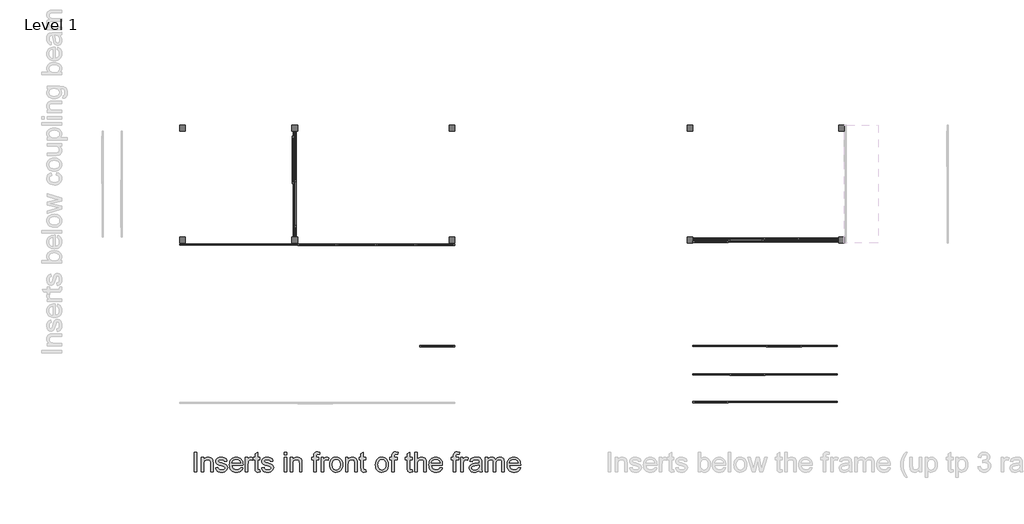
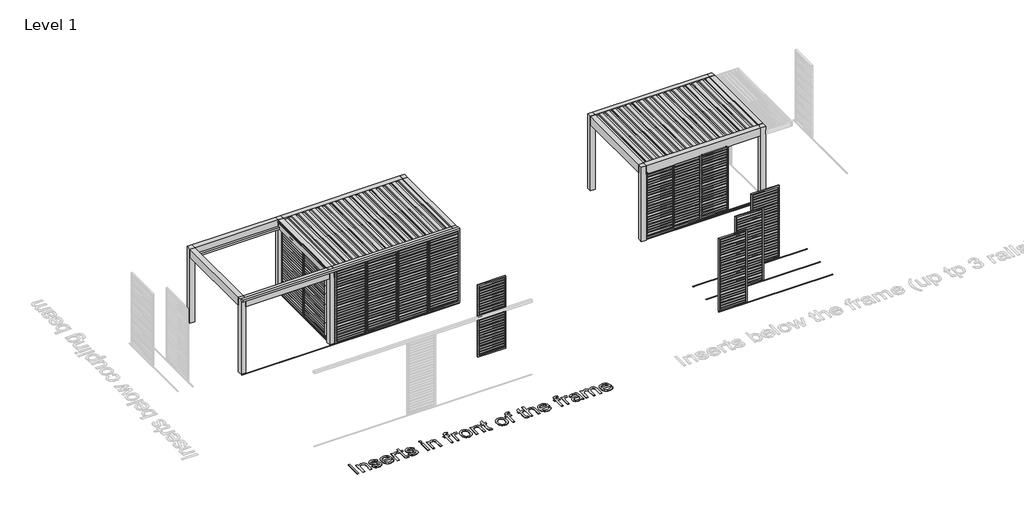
# One storey, part 28 of 80: 16 proxies.
"""IFC4 building model written with IfcOpenShell, lengths in millimetres."""

from ifc_helpers import new_model, si_unit, origin, origin_with_axes, place, context, project, spatial, polyline, outline, extrude, transform, mapped, element, save
from components import generic_models_f342dfb5, generic_models_eb283adb, generic_models_c7c46cfa, generic_models_8391a76d, generic_models_fa1a9668, generic_models_cdf295df, generic_models_edb0fb24, generic_models_1257a8fd, generic_models_31c1c7fc, generic_models_13bb7243, generic_models_96be32b9, generic_models_48b574e4, generic_models_f3fb5b0b

model = new_model("IFC4")

# Units and contexts
model_context = context("Model", 3, world=origin())
ifc_project = project(units=[si_unit("LENGTHUNIT", "METRE", prefix="MILLI")], contexts=[model_context])

# Site, building, storey
site = spatial("IfcSite", under=ifc_project)
building = spatial("IfcBuilding", under=site)
storey = spatial("IfcBuildingStorey", under=building, Name="Level 1", Elevation=0.0)

# Proxies
placement = place(None, origin())
generic_models_shape = generic_models_f342dfb5(model_context)
element("IfcBuildingElementProxy", 1, Name="Renson_Amani_Patio_Cover : Renson_Amani_Patio_Cover", ObjectType="Renson_Amani_Patio_Cover : Renson_Amani_Patio_Cover", at=placement, inside=storey, context=model_context, shape_type="MappedRepresentation", body=[
    mapped(generic_models_shape, transform((417010.5749426, -39559.318181, 0.0), x_axis=(1.0, 0.0, 0.0), y_axis=(0.0, 1.0, 0.0), z_axis=(0.0, 0.0, 1.0))),
])
generic_models_2_shape = generic_models_eb283adb(model_context)
element("IfcBuildingElementProxy", 2, Name="Renson_Amani_Patio_Cover : Renson_Amani_Patio_Cover", ObjectType="Renson_Amani_Patio_Cover : Renson_Amani_Patio_Cover", at=placement, inside=storey, context=model_context, shape_type="MappedRepresentation", body=[
    mapped(generic_models_2_shape, transform((430410.5749426, -39559.318181, 0.0), x_axis=(1.0, 0.0, 0.0), y_axis=(0.0, 1.0, 0.0), z_axis=(0.0, 0.0, 1.0))),
])
generic_models_3_shape = generic_models_c7c46cfa(model_context)
element("IfcBuildingElementProxy", 3, Name="Renson_Amani_Loggia_Paro_Aluminium_Sliding : Renson_Amani_Loggia_Paro_Aluminium_Sliding", ObjectType="Renson_Amani_Loggia_Paro_Aluminium_Sliding : Renson_Amani_Loggia_Paro_Aluminium_Sliding", at=placement, inside=storey, context=model_context, shape_type="MappedRepresentation", body=[
    mapped(generic_models_3_shape, transform((420010.5749426, -41105.318181, 0.0), x_axis=(1.0, 0.0, 0.0), y_axis=(0.0, 1.0, 0.0), z_axis=(0.0, 0.0, 1.0))),
])
element("IfcBuildingElementProxy", 4, Name="Renson_Amani_Loggia_Paro_Aluminium_Sliding : Renson_Amani_Loggia_Paro_Aluminium_Sliding", ObjectType="Renson_Amani_Loggia_Paro_Aluminium_Sliding : Renson_Amani_Loggia_Paro_Aluminium_Sliding", at=placement, inside=storey, context=model_context, shape_type="MappedRepresentation", body=[
    mapped(generic_models_3_shape, transform((421010.5749426, -41105.318181, 0.0), x_axis=(1.0, 0.0, 0.0), y_axis=(0.0, 1.0, 0.0), z_axis=(0.0, 0.0, 1.0))),
])
element("IfcBuildingElementProxy", 5, Name="Renson_Amani_Loggia_Paro_Aluminium_Sliding : Renson_Amani_Loggia_Paro_Aluminium_Sliding", ObjectType="Renson_Amani_Loggia_Paro_Aluminium_Sliding : Renson_Amani_Loggia_Paro_Aluminium_Sliding", at=placement, inside=storey, context=model_context, shape_type="MappedRepresentation", body=[
    mapped(generic_models_3_shape, transform((422010.5749426, -41105.318181, 0.0), x_axis=(1.0, 0.0, 0.0), y_axis=(0.0, 1.0, 0.0), z_axis=(0.0, 0.0, 1.0))),
])
generic_models_4_shape = generic_models_8391a76d(model_context)
element("IfcBuildingElementProxy", 6, Name="Renson_Amani_Loggia_Paro_Aluminium_Sliding : Renson_Amani_Loggia_Paro_Aluminium_Sliding", ObjectType="Renson_Amani_Loggia_Paro_Aluminium_Sliding : Renson_Amani_Loggia_Paro_Aluminium_Sliding", at=placement, inside=storey, context=model_context, shape_type="MappedRepresentation", body=[
    mapped(generic_models_4_shape, transform((419010.5749426, -41105.318181, 0.0), x_axis=(1.0, 0.0, 0.0), y_axis=(0.0, 1.0, 0.0), z_axis=(0.0, 0.0, 1.0))),
])
generic_models_5_shape = generic_models_fa1a9668(model_context)
element("IfcBuildingElementProxy", 7, Name="Renson_Amani_Loggia_Paro_Aluminium_Sliding : Renson_Amani_Loggia_Paro_Aluminium_Sliding", ObjectType="Renson_Amani_Loggia_Paro_Aluminium_Sliding : Renson_Amani_Loggia_Paro_Aluminium_Sliding", at=placement, inside=storey, context=model_context, shape_type="MappedRepresentation", body=[
    mapped(generic_models_5_shape, transform((422060.5749426, -43687.443424, 0.0), x_axis=(1.0, 0.0, 0.0), y_axis=(0.0, 1.0, 0.0), z_axis=(0.0, 0.0, 1.0))),
])
generic_models_6_shape = generic_models_cdf295df(model_context)
element("IfcBuildingElementProxy", 8, Name="Renson_Amani_Loggia_Paro_Aluminium_Sliding : Renson_Amani_Loggia_Paro_Aluminium_Sliding", ObjectType="Renson_Amani_Loggia_Paro_Aluminium_Sliding : Renson_Amani_Loggia_Paro_Aluminium_Sliding", at=placement, inside=storey, context=model_context, shape_type="MappedRepresentation", body=[
    mapped(generic_models_6_shape, transform((418400.5749426, -38944.9696571, 0.0), x_axis=(0.0, -1.0, 0.0), y_axis=(1.0, 0.0, 0.0), z_axis=(0.0, 0.0, 1.0))),
])
generic_models_7_shape = generic_models_edb0fb24(model_context)
element("IfcBuildingElementProxy", 9, Name="Renson_Amani_Loggia_Paro_Aluminium_Sliding : Renson_Amani_Loggia_Paro_Aluminium_Sliding", ObjectType="Renson_Amani_Loggia_Paro_Aluminium_Sliding : Renson_Amani_Loggia_Paro_Aluminium_Sliding", at=placement, inside=storey, context=model_context, shape_type="MappedRepresentation", body=[
    mapped(generic_models_7_shape, transform((429010.5749426, -45109.3676714, 0.0), x_axis=(1.0, 0.0, 0.0), y_axis=(0.0, 1.0, 0.0), z_axis=(0.0, 0.0, 1.0))),
])
generic_models_8_shape = generic_models_1257a8fd(model_context)
element("IfcBuildingElementProxy", 10, Name="Renson_Amani_Loggia_Paro_Aluminium_Sliding : Renson_Amani_Loggia_Paro_Aluminium_Sliding", ObjectType="Renson_Amani_Loggia_Paro_Aluminium_Sliding : Renson_Amani_Loggia_Paro_Aluminium_Sliding", at=placement, inside=storey, context=model_context, shape_type="MappedRepresentation", body=[
    mapped(generic_models_8_shape, transform((430873.5579528, -43687.443424, 0.0), x_axis=(1.0, 0.0, 0.0), y_axis=(0.0, 1.0, 0.0), z_axis=(0.0, 0.0, 1.0))),
])
generic_models_9_shape = generic_models_31c1c7fc(model_context)
element("IfcBuildingElementProxy", 11, Name="Renson_Amani_Loggia_Paro_Aluminium_Sliding : Renson_Amani_Loggia_Paro_Aluminium_Sliding", ObjectType="Renson_Amani_Loggia_Paro_Aluminium_Sliding : Renson_Amani_Loggia_Paro_Aluminium_Sliding", at=placement, inside=storey, context=model_context, shape_type="MappedRepresentation", body=[
    mapped(generic_models_9_shape, transform((429948.6260101, -44407.443424, 0.0), x_axis=(1.0, 0.0, 0.0), y_axis=(0.0, 1.0, 0.0), z_axis=(0.0, 0.0, 1.0))),
])
generic_models_10_shape = generic_models_13bb7243(model_context)
element("IfcBuildingElementProxy", 12, Name="Renson_Amani_Loggia_Paro_Aluminium_Sliding : Renson_Amani_Loggia_Paro_Aluminium_Sliding", ObjectType="Renson_Amani_Loggia_Paro_Aluminium_Sliding : Renson_Amani_Loggia_Paro_Aluminium_Sliding", at=placement, inside=storey, context=model_context, shape_type="MappedRepresentation", body=[
    mapped(generic_models_10_shape, transform((418461.3699543, -40060.1026897, 0.0), x_axis=(0.0, -1.0, 0.0), y_axis=(1.0, 0.0, 0.0), z_axis=(0.0, 0.0, 1.0))),
])
generic_models_11_shape = generic_models_96be32b9(model_context)
element("IfcBuildingElementProxy", 13, Name="Renson_Amani_Loggia_Paro_Aluminium_Sliding : Renson_Amani_Loggia_Paro_Aluminium_Sliding", ObjectType="Renson_Amani_Loggia_Paro_Aluminium_Sliding : Renson_Amani_Loggia_Paro_Aluminium_Sliding", at=placement, inside=storey, context=model_context, shape_type="MappedRepresentation", body=[
    mapped(generic_models_11_shape, transform((429010.5749426, -41025.818181, 0.0), x_axis=(1.0, 0.0, 0.0), y_axis=(0.0, 1.0, 0.0), z_axis=(0.0, 0.0, 1.0))),
])
generic_models_12_shape = generic_models_48b574e4(model_context)
element("IfcBuildingElementProxy", 14, Name="Renson_Amani_Loggia_Paro_Aluminium_Sliding : Renson_Amani_Loggia_Paro_Aluminium_Sliding", ObjectType="Renson_Amani_Loggia_Paro_Aluminium_Sliding : Renson_Amani_Loggia_Paro_Aluminium_Sliding", at=placement, inside=storey, context=model_context, shape_type="MappedRepresentation", body=[
    mapped(generic_models_12_shape, transform((429910.5749426, -40985.318181, 0.0), x_axis=(1.0, 0.0, 0.0), y_axis=(0.0, 1.0, 0.0), z_axis=(0.0, 0.0, 1.0))),
])
generic_models_13_shape = generic_models_f3fb5b0b(model_context)
element("IfcBuildingElementProxy", 15, Name="Renson_Amani_Loggia_Paro_Aluminium_Sliding : Renson_Amani_Loggia_Paro_Aluminium_Sliding", ObjectType="Renson_Amani_Loggia_Paro_Aluminium_Sliding : Renson_Amani_Loggia_Paro_Aluminium_Sliding", at=placement, inside=storey, context=model_context, shape_type="MappedRepresentation", body=[
    mapped(generic_models_13_shape, transform((430810.5749426, -40945.568181, 0.0), x_axis=(1.0, 0.0, 0.0), y_axis=(0.0, 1.0, 0.0), z_axis=(0.0, 0.0, 1.0))),
])
element("IfcBuildingElementProxy", 16, Name="500mm Arial", ObjectType="500mm Arial", at=placement, inside=storey, context=model_context, shape_type="SweptSolid", body=[
    extrude(outline(polyline([(415883.7434432, -46882.3382736), (415883.7434432, -46380.0567228), (415946.5286371, -46380.0567228), (415946.5286371, -46882.3382736), (415883.7434432, -46882.3382736)])), origin_with_axes(), (0.0, 0.0, 1.0), 5.0),
    extrude(outline(polyline([(416064.2508755, -46882.3382736), (416064.2508755, -46513.4752597), (416127.0360694, -46513.4752597), (416127.0360694, -46564.9787391), (416148.848406, -46539.0124016), (416175.0446697, -46520.4650176), (416205.6248606, -46509.3365873), (416240.5889785, -46505.6271105), (416271.5370514, -46508.6161517), (416299.8792934, -46517.5832753), (416323.5157116, -46531.409507), (416340.3463129, -46548.9758723), (416351.7659832, -46570.2363859), (416359.1696083, -46595.1450627), (416362.4805463, -46655.8455919), (416362.4805463, -46882.3382736), (416299.6953524, -46882.3382736), (416299.6953524, -46664.3068778), (416297.8865993, -46631.8412917), (416292.4603399, -46608.7566965), (416282.4508839, -46592.2173351), (416266.8925412, -46579.3874505), (416246.9502714, -46571.1560909), (416223.7890341, -46568.4123043), (416204.7243161, -46569.9528102), (416187.016163, -46574.5743278), (416170.6645747, -46582.276857), (416155.6695513, -46593.060398), (416143.142403, -46608.151224), (416134.1944399, -46628.7756084), (416128.825662, -46654.9335511), (416127.0360694, -46686.6250521), (416127.0360694, -46882.3382736), (416064.2508755, -46882.3382736)])), origin_with_axes(), (0.0, 0.0, 1.0), 5.0),
    extrude(outline(polyline([(416425.2657401, -46772.4641843), (416488.050934, -46764.6160351), (416497.953091, -46791.4714208), (416517.1136116, -46811.2144212), (416545.655123, -46823.354527), (416583.7002527, -46827.4012289), (416621.2855299, -46823.6917522), (416647.7117199, -46812.5633218), (416663.3467047, -46796.4378277), (416668.5583663, -46777.7371596), (416663.3160478, -46761.7342928), (416647.5890925, -46749.5328733), (416582.9644887, -46731.6292829), (416525.666868, -46715.0592647), (416488.418816, -46700.9111363), (416464.4911579, -46685.4754209), (416447.1547188, -46665.0426417), (416436.6240967, -46640.9157142), (416433.1138894, -46614.3975537), (416435.934318, -46590.0713568), (416444.3956039, -46567.6152267), (416457.7313262, -46547.9182115), (416475.1750641, -46531.8693595), (416492.5115032, -46521.767933), (416515.0902606, -46513.2913187), (416541.1945539, -46507.5431626), (416569.1076002, -46505.6271105), (416609.9731585, -46508.7081222), (416645.5044279, -46517.9511573), (416674.0765962, -46532.4518393), (416694.0648513, -46551.3057916), (416707.3086031, -46575.9079), (416715.6472616, -46607.6530505), (416652.8620678, -46615.5011997), (416644.9372765, -46595.7428709), (416629.2563064, -46580.8589785), (416605.6658735, -46571.5239729), (416574.0126935, -46568.4123043), (416537.960258, -46571.3860171), (416513.925301, -46580.3071555), (416500.4056376, -46593.1830254), (416495.8990832, -46608.0209325), (416497.76915, -46617.6778349), (416503.3793504, -46626.2924049), (416512.9749391, -46633.98727), (416526.8011708, -46640.1492934), (416580.8798241, -46653.5156726), (416673.0342639, -46683.0688595), (416697.3757892, -46697.2016595), (416715.8312026, -46716.5461211), (416727.4654707, -46741.1635579), (416731.3435601, -46771.1152837), (416726.7910204, -46802.0786849), (416713.1334013, -46831.2026762), (416690.8918691, -46856.2033235), (416660.5875897, -46874.7966927), (416623.9833312, -46886.3389903), (416582.8418614, -46890.1864228), (416549.0503673, -46888.3316844), (416519.5355014, -46882.7674692), (416494.2972637, -46873.4937773), (416473.3356542, -46860.5106085), (416456.213813, -46843.8792767), (416442.4948802, -46823.6610953), (416432.1788559, -46799.8560646), (416425.2657401, -46772.4641843)])), origin_with_axes(), (0.0, 0.0, 1.0), 5.0),
    extrude(outline(polyline([(417060.2300638, -46772.4641843), (417121.7889843, -46780.3123336), (417112.3505119, -46804.9680915), (417099.6087657, -46826.6961218), (417083.5637458, -46845.4964246), (417064.2154521, -46861.3689998), (417041.7631541, -46873.9766224), (417016.4061211, -46882.9820671), (416988.1443533, -46888.3853339), (416956.9778505, -46890.1864228), (416918.02068, -46887.0785864), (416883.309481, -46877.755077), (416852.8442532, -46862.2158948), (416826.6249969, -46840.4610398), (416805.54076, -46813.0959843), (416790.4805908, -46780.7262008), (416781.4444893, -46743.3516894), (416778.4324555, -46700.9724499), (416781.4751462, -46657.1561715), (416790.6032182, -46618.5362262), (416805.8166715, -46585.1126141), (416827.1155062, -46556.8853352), (416853.2657847, -46534.4598619), (416883.0335695, -46518.4416667), (416916.4188605, -46508.8307495), (416953.4216579, -46505.6271105), (416989.2326708, -46508.8230853), (417021.6177827, -46518.4110098), (417050.5769935, -46534.390884), (417076.1103033, -46556.7627078), (417096.9531175, -46584.9286731), (417111.840842, -46618.2909715), (417120.7734767, -46656.8496031), (417123.7510216, -46700.6045679), (417123.3831396, -46717.5271397), (416841.2176493, -46717.5271397), (416844.8543161, -46742.5814364), (416852.0854966, -46764.5240646), (416862.9111907, -46783.3550242), (416877.3313985, -46799.0743153), (416894.5490423, -46811.46734), (416913.7670445, -46820.3195005), (416934.985405, -46825.6307968), (416958.2041238, -46827.4012289), (416991.6200717, -46824.1209478), (417019.7630443, -46814.2801045), (417042.6330417, -46797.2655622), (417060.2300638, -46772.4641843)]), holes=[polyline([(416841.2176493, -46654.7419459), (417060.9658278, -46654.7419459), (417052.4738851, -46621.5712526), (417035.8272248, -46597.842864), (417018.7053836, -46584.9669941), (416999.2229663, -46575.7699442), (416977.3799728, -46570.2517143), (416953.1764032, -46568.4123043), (416910.8546453, -46574.2830879), (416892.4413851, -46581.6215672), (416875.8598705, -46591.8954384), (416861.9455005, -46604.6295203), (416851.5336736, -46619.3486323), (416844.6243899, -46636.0527741), (416841.2176493, -46654.7419459)])]), origin_with_axes(), (0.0, 0.0, 1.0), 5.0),
    extrude(outline(polyline([(417555.3992293, -46829.9764029), (417563.2473785, -46884.1776835), (417516.2811105, -46890.1864228), (417486.1454437, -46887.580592), (417463.6739852, -46879.7630996), (417447.7937457, -46867.7149643), (417437.4317362, -46852.4172046), (417431.7295653, -46826.1442988), (417429.8288416, -46781.1707249), (417429.8288416, -46576.2604536), (417382.7399462, -46576.2604536), (417382.7399462, -46525.0022289), (417382.7399462, -46513.4752597), (417429.8288416, -46513.4752597), (417429.8288416, -46423.8346802), (417492.6140355, -46386.9238534), (417492.6140355, -46513.4752597), (417555.3992293, -46513.4752597), (417555.3992293, -46576.2604536), (417492.6140355, -46576.2604536), (417492.6140355, -46779.3313149), (417495.9249734, -46811.7049305), (417506.6548649, -46823.170586), (417528.0533343, -46827.4012289), (417555.3992293, -46829.9764029)])), origin_with_axes(), (0.0, 0.0, 1.0), 5.0),
    extrude(outline(polyline([(417186.5362155, -46882.3382736), (417186.5362155, -46513.4752597), (417241.4732601, -46513.4752597), (417241.4732601, -46568.0444223), (417261.7680835, -46536.4065708), (417280.4687516, -46517.7672163), (417299.2307333, -46508.662137), (417319.7094977, -46505.6271105), (417350.9794673, -46510.4708901), (417382.7399462, -46525.0022289), (417361.7706725, -46581.2881742), (417339.6977528, -46571.6312718), (417317.6248331, -46568.4123043), (417298.8781798, -46571.5086445), (417282.1242206, -46580.7976648), (417268.5892288, -46595.5742583), (417259.4994779, -46615.1333177), (417251.8659265, -46650.2047346), (417249.3214093, -46688.4644621), (417249.3214093, -46882.3382736), (417186.5362155, -46882.3382736)])), origin_with_axes(), (0.0, 0.0, 1.0), 5.0),
    extrude(outline(polyline([(417594.6399755, -46772.4641843), (417657.4251693, -46764.6160351), (417667.3273263, -46791.4714208), (417686.4878469, -46811.2144212), (417715.0293584, -46823.354527), (417753.074488, -46827.4012289), (417790.6597652, -46823.6917522), (417817.0859552, -46812.5633218), (417832.72094, -46796.4378277), (417837.9326016, -46777.7371596), (417832.6902832, -46761.7342928), (417816.9633279, -46749.5328733), (417752.3387241, -46731.6292829), (417695.0411033, -46715.0592647), (417657.7930513, -46700.9111363), (417633.8653932, -46685.4754209), (417616.5289542, -46665.0426417), (417605.9983321, -46640.9157142), (417602.4881247, -46614.3975537), (417605.3085533, -46590.0713568), (417613.7698392, -46567.6152267), (417627.1055615, -46547.9182115), (417644.5492995, -46531.8693595), (417661.8857385, -46521.767933), (417684.4644959, -46513.2913187), (417710.5687892, -46507.5431626), (417738.4818356, -46505.6271105), (417779.3473939, -46508.7081222), (417814.8786632, -46517.9511573), (417843.4508315, -46532.4518393), (417863.4390866, -46551.3057916), (417876.6828384, -46575.9079), (417885.021497, -46607.6530505), (417822.2363031, -46615.5011997), (417814.3115118, -46595.7428709), (417798.6305418, -46580.8589785), (417775.0401088, -46571.5239729), (417743.3869288, -46568.4123043), (417707.3344933, -46571.3860171), (417683.2995363, -46580.3071555), (417669.779873, -46593.1830254), (417665.2733185, -46608.0209325), (417667.1433853, -46617.6778349), (417672.7535858, -46626.2924049), (417682.3491745, -46633.98727), (417696.1754061, -46640.1492934), (417750.2540594, -46653.5156726), (417842.4084992, -46683.0688595), (417866.7500246, -46697.2016595), (417885.205438, -46716.5461211), (417896.8397061, -46741.1635579), (417900.7177954, -46771.1152837), (417896.1652558, -46802.0786849), (417882.5076367, -46831.2026762), (417860.2661044, -46856.2033235), (417829.961825, -46874.7966927), (417793.3575665, -46886.3389903), (417752.2160967, -46890.1864228), (417718.4246026, -46888.3316844), (417688.9097367, -46882.7674692), (417663.671499, -46873.4937773), (417642.7098895, -46860.5106085), (417625.5880483, -46843.8792767), (417611.8691156, -46823.6610953), (417601.5530913, -46799.8560646), (417594.6399755, -46772.4641843)])), origin_with_axes(), (0.0, 0.0, 1.0), 5.0),
    extrude(outline(polyline([(418167.5548693, -46442.8419167), (418167.5548693, -46380.0567228), (418230.3400631, -46380.0567228), (418230.3400631, -46442.8419167), (418167.5548693, -46442.8419167)])), origin_with_axes(), (0.0, 0.0, 1.0), 5.0),
    extrude(outline(polyline([(418167.5548693, -46882.3382736), (418167.5548693, -46513.4752597), (418230.3400631, -46513.4752597), (418230.3400631, -46882.3382736), (418167.5548693, -46882.3382736)])), origin_with_axes(), (0.0, 0.0, 1.0), 5.0),
    extrude(outline(polyline([(418324.5178539, -46882.3382736), (418324.5178539, -46513.4752597), (418387.3030477, -46513.4752597), (418387.3030477, -46564.9787391), (418409.1153844, -46539.0124016), (418435.3116481, -46520.4650176), (418465.891839, -46509.3365873), (418500.8559569, -46505.6271105), (418531.8040298, -46508.6161517), (418560.1462718, -46517.5832753), (418583.78269, -46531.409507), (418600.6132913, -46548.9758723), (418612.0329615, -46570.2363859), (418619.4365867, -46595.1450627), (418622.7475246, -46655.8455919), (418622.7475246, -46882.3382736), (418559.9623308, -46882.3382736), (418559.9623308, -46664.3068778), (418558.1535777, -46631.8412917), (418552.7273182, -46608.7566965), (418542.7178623, -46592.2173351), (418527.1595196, -46579.3874505), (418507.2172497, -46571.1560909), (418484.0560125, -46568.4123043), (418464.9912945, -46569.9528102), (418447.2831414, -46574.5743278), (418430.9315531, -46582.276857), (418415.9365297, -46593.060398), (418403.4093813, -46608.151224), (418394.4614182, -46628.7756084), (418389.0926404, -46654.9335511), (418387.3030477, -46686.6250521), (418387.3030477, -46882.3382736), (418324.5178539, -46882.3382736)])), origin_with_axes(), (0.0, 0.0, 1.0), 5.0),
    extrude(outline(polyline([(418920.9771954, -46882.3382736), (418920.9771954, -46576.2604536), (418866.0401508, -46576.2604536), (418866.0401508, -46513.4752597), (418920.9771954, -46513.4752597), (418920.9771954, -46476.3191782), (418922.6326644, -46445.5703748), (418927.5990713, -46423.9573076), (418940.2296865, -46403.0800043), (418959.7274322, -46386.5559714), (418987.0120135, -46375.795423), (419023.0031354, -46372.2085736), (419080.2700993, -46379.0757042), (419071.0730494, -46437.9368234), (419034.8979866, -46434.9937674), (419011.0316421, -46437.5995982), (418995.3506721, -46445.4170906), (418986.65946, -46460.3469683), (418983.7623892, -46484.2899548), (418983.7623892, -46513.4752597), (419054.3957323, -46513.4752597), (419054.3957323, -46576.2604536), (418983.7623892, -46576.2604536), (418983.7623892, -46882.3382736), (418920.9771954, -46882.3382736)])), origin_with_axes(), (0.0, 0.0, 1.0), 5.0),
    extrude(outline(polyline([(419109.3327769, -46882.3382736), (419109.3327769, -46513.4752597), (419164.2698215, -46513.4752597), (419164.2698215, -46568.0444223), (419184.5646449, -46536.4065708), (419203.265313, -46517.7672163), (419222.0272948, -46508.662137), (419242.5060592, -46505.6271105), (419273.7760288, -46510.4708901), (419305.5365077, -46525.0022289), (419284.567234, -46581.2881742), (419262.4943143, -46571.6312718), (419240.4213945, -46568.4123043), (419221.6747412, -46571.5086445), (419204.920782, -46580.7976648), (419191.3857903, -46595.5742583), (419182.2960393, -46615.1333177), (419174.6624879, -46650.2047346), (419172.1179708, -46688.4644621), (419172.1179708, -46882.3382736), (419109.3327769, -46882.3382736)])), origin_with_axes(), (0.0, 0.0, 1.0), 5.0),
    extrude(outline(polyline([(419329.0809554, -46697.9067666), (419332.4761996, -46650.1357567), (419342.6619324, -46608.9712943), (419359.6381536, -46574.4133794), (419383.4048633, -46546.462012), (419407.3325214, -46528.5967426), (419433.743383, -46515.8358359), (419462.637448, -46508.1792918), (419494.0147166, -46505.6271105), (419528.6531057, -46508.7349469), (419559.9728926, -46518.0584563), (419587.9740774, -46533.5976384), (419612.65666, -46555.3524935), (419632.8020313, -46582.5872575), (419647.1915823, -46614.5661663), (419655.8253129, -46651.2892201), (419658.7032231, -46692.7564187), (419653.6141888, -46756.185406), (419647.252896, -46782.2207214), (419638.347086, -46804.4699179), (419627.0078899, -46823.6879201), (419613.3464387, -46840.6296524), (419597.3627325, -46855.2951148), (419579.0567711, -46867.6843074), (419538.3291686, -46884.560894), (419494.0147166, -46890.1864228), (419458.8704897, -46887.0900827), (419427.2594628, -46877.8010623), (419399.181636, -46862.3193617), (419374.6370091, -46840.6449808), (419354.7062356, -46813.1458016), (419340.4699688, -46780.1897062), (419331.9282087, -46741.7766946), (419329.0809554, -46697.9067666)]), holes=[polyline([(419391.8661492, -46697.7841393), (419393.6825666, -46728.2378707), (419399.1318186, -46754.6065792), (419408.2139054, -46776.8902646), (419420.9288268, -46795.088927), (419436.3951991, -46809.2255591), (419453.7316381, -46819.3231535), (419472.9381439, -46825.3817101), (419494.0147166, -46827.4012289), (419514.9839903, -46825.3702138), (419534.113854, -46819.2771682), (419551.4043078, -46809.1220923), (419566.8553516, -46794.904986), (419579.5702731, -46776.5262147), (419588.6523598, -46753.8861436), (419594.1016119, -46726.9847727), (419595.9180292, -46695.822102), (419594.0901156, -46666.3340608), (419588.6063746, -46640.6551311), (419579.4668062, -46618.785313), (419566.6714106, -46600.7246063), (419551.1628852, -46586.5879742), (419533.8839278, -46576.4903798), (419514.8345382, -46570.4318232), (419494.0147166, -46568.4123043), (419472.9381439, -46570.424159), (419453.7316381, -46576.459723), (419436.3951991, -46586.5189963), (419420.9288268, -46600.6019789), (419408.2139054, -46618.7469919), (419399.1318186, -46640.9923563), (419393.6825666, -46667.3380721), (419391.8661492, -46697.7841393)])]), origin_with_axes(), (0.0, 0.0, 1.0), 5.0),
    extrude(outline(polyline([(419729.3365661, -46882.3382736), (419729.3365661, -46513.4752597), (419792.12176, -46513.4752597), (419792.12176, -46564.9787391), (419813.9340966, -46539.0124016), (419840.1303604, -46520.4650176), (419870.7105512, -46509.3365873), (419905.6746692, -46505.6271105), (419936.622742, -46508.6161517), (419964.964984, -46517.5832753), (419988.6014022, -46531.409507), (420005.4320035, -46548.9758723), (420016.8516738, -46570.2363859), (420024.2552989, -46595.1450627), (420027.5662369, -46655.8455919), (420027.5662369, -46882.3382736), (419964.781043, -46882.3382736), (419964.781043, -46664.3068778), (419962.9722899, -46631.8412917), (419957.5460305, -46608.7566965), (419947.5365745, -46592.2173351), (419931.9782318, -46579.3874505), (419912.035962, -46571.1560909), (419888.8747247, -46568.4123043), (419869.8100067, -46569.9528102), (419852.1018536, -46574.5743278), (419835.7502653, -46582.276857), (419820.7552419, -46593.060398), (419808.2280936, -46608.151224), (419799.2801305, -46628.7756084), (419793.9113526, -46654.9335511), (419792.12176, -46686.6250521), (419792.12176, -46882.3382736), (419729.3365661, -46882.3382736)])), origin_with_axes(), (0.0, 0.0, 1.0), 5.0),
    extrude(outline(polyline([(420247.3144153, -46829.9764029), (420255.1625646, -46884.1776835), (420208.1962965, -46890.1864228), (420178.0606298, -46887.580592), (420155.5891712, -46879.7630996), (420139.7089318, -46867.7149643), (420129.3469222, -46852.4172046), (420123.6447513, -46826.1442988), (420121.7440277, -46781.1707249), (420121.7440277, -46576.2604536), (420074.6551323, -46576.2604536), (420074.6551323, -46513.4752597), (420121.7440277, -46513.4752597), (420121.7440277, -46423.8346802), (420184.5292215, -46386.9238534), (420184.5292215, -46513.4752597), (420247.3144153, -46513.4752597), (420247.3144153, -46576.2604536), (420184.5292215, -46576.2604536), (420184.5292215, -46779.3313149), (420187.8401595, -46811.7049305), (420198.570051, -46823.170586), (420219.9685204, -46827.4012289), (420247.3144153, -46829.9764029)])), origin_with_axes(), (0.0, 0.0, 1.0), 5.0),
    extrude(outline(polyline([(420490.6070415, -46697.9067666), (420494.0022857, -46650.1357567), (420504.1880185, -46608.9712943), (420521.1642397, -46574.4133794), (420544.9309494, -46546.462012), (420568.8586075, -46528.5967426), (420595.2694691, -46515.8358359), (420624.1635342, -46508.1792918), (420655.5408027, -46505.6271105), (420690.1791918, -46508.7349469), (420721.4989787, -46518.0584563), (420749.5001635, -46533.5976384), (420774.1827461, -46555.3524935), (420794.3281174, -46582.5872575), (420808.7176684, -46614.5661663), (420817.351399, -46651.2892201), (420820.2293092, -46692.7564187), (420815.1402749, -46756.185406), (420808.7789821, -46782.2207214), (420799.8731721, -46804.4699179), (420788.533976, -46823.6879201), (420774.8725248, -46840.6296524), (420758.8888186, -46855.2951148), (420740.5828572, -46867.6843074), (420699.8552547, -46884.560894), (420655.5408027, -46890.1864228), (420620.3965758, -46887.0900827), (420588.785549, -46877.8010623), (420560.7077221, -46862.3193617), (420536.1630952, -46840.6449808), (420516.2323217, -46813.1458016), (420501.9960549, -46780.1897062), (420493.4542948, -46741.7766946), (420490.6070415, -46697.9067666)]), holes=[polyline([(420553.3922353, -46697.7841393), (420555.2086527, -46728.2378707), (420560.6579047, -46754.6065792), (420569.7399915, -46776.8902646), (420582.454913, -46795.088927), (420597.9212852, -46809.2255591), (420615.2577242, -46819.3231535), (420634.46423, -46825.3817101), (420655.5408027, -46827.4012289), (420676.5100764, -46825.3702138), (420695.6399401, -46819.2771682), (420712.9303939, -46809.1220923), (420728.3814377, -46794.904986), (420741.0963592, -46776.5262147), (420750.1784459, -46753.8861436), (420755.627698, -46726.9847727), (420757.4441153, -46695.822102), (420755.6162017, -46666.3340608), (420750.1324607, -46640.6551311), (420740.9928924, -46618.785313), (420728.1974967, -46600.7246063), (420712.6889713, -46586.5879742), (420695.4100139, -46576.4903798), (420676.3606243, -46570.4318232), (420655.5408027, -46568.4123043), (420634.46423, -46570.424159), (420615.2577242, -46576.459723), (420597.9212852, -46586.5189963), (420582.454913, -46600.6019789), (420569.7399915, -46618.7469919), (420560.6579047, -46640.9923563), (420555.2086527, -46667.3380721), (420553.3922353, -46697.7841393)])]), origin_with_axes(), (0.0, 0.0, 1.0), 5.0),
    extrude(outline(polyline([(420906.5589507, -46882.3382736), (420906.5589507, -46576.2604536), (420851.6219061, -46576.2604536), (420851.6219061, -46513.4752597), (420906.5589507, -46513.4752597), (420906.5589507, -46476.3191782), (420908.2144197, -46445.5703748), (420913.1808266, -46423.9573076), (420925.8114418, -46403.0800043), (420945.3091875, -46386.5559714), (420972.5937688, -46375.795423), (421008.5848907, -46372.2085736), (421065.8518546, -46379.0757042), (421056.6548047, -46437.9368234), (421020.4797419, -46434.9937674), (420996.6133974, -46437.5995982), (420980.9324274, -46445.4170906), (420972.2412153, -46460.3469683), (420969.3441445, -46484.2899548), (420969.3441445, -46513.4752597), (421039.9774876, -46513.4752597), (421039.9774876, -46576.2604536), (420969.3441445, -46576.2604536), (420969.3441445, -46882.3382736), (420906.5589507, -46882.3382736)])), origin_with_axes(), (0.0, 0.0, 1.0), 5.0),
    extrude(outline(polyline([(421424.5367999, -46829.9764029), (421432.3849491, -46884.1776835), (421385.4186811, -46890.1864228), (421355.2830143, -46887.580592), (421332.8115558, -46879.7630996), (421316.9313163, -46867.7149643), (421306.5693068, -46852.4172046), (421300.8671359, -46826.1442988), (421298.9664122, -46781.1707249), (421298.9664122, -46576.2604536), (421251.8775168, -46576.2604536), (421251.8775168, -46513.4752597), (421298.9664122, -46513.4752597), (421298.9664122, -46423.8346802), (421361.7516061, -46386.9238534), (421361.7516061, -46513.4752597), (421424.5367999, -46513.4752597), (421424.5367999, -46576.2604536), (421361.7516061, -46576.2604536), (421361.7516061, -46779.3313149), (421365.062544, -46811.7049305), (421375.7924356, -46823.170586), (421397.1909049, -46827.4012289), (421424.5367999, -46829.9764029)])), origin_with_axes(), (0.0, 0.0, 1.0), 5.0),
    extrude(outline(polyline([(421487.3219938, -46882.3382736), (421487.3219938, -46380.0567228), (421550.1071876, -46380.0567228), (421550.1071876, -46564.7334844), (421573.1687902, -46538.8744458), (421599.0661498, -46520.403704), (421627.7992665, -46509.3212589), (421659.3681402, -46505.6271105), (421697.2906425, -46509.658484), (421729.8788559, -46521.7526046), (421755.5386251, -46540.9591105), (421772.6757947, -46566.3276397), (421782.3326971, -46601.1844587), (421785.5516645, -46648.855834), (421785.5516645, -46882.3382736), (421722.7664707, -46882.3382736), (421722.7664707, -46655.3550825), (421717.7694069, -46616.0530227), (421711.5230772, -46601.046503), (421702.7782156, -46589.1363234), (421691.7417557, -46580.0695651), (421678.6206312, -46573.5933091), (421646.1243883, -46568.4123043), (421619.5908994, -46571.9071833), (421594.6822227, -46582.3918202), (421574.0501741, -46598.8545394), (421560.3465698, -46620.2836657), (421552.6670331, -46648.7638635), (421550.1071876, -46686.3797975), (421550.1071876, -46882.3382736), (421487.3219938, -46882.3382736)])), origin_with_axes(), (0.0, 0.0, 1.0), 5.0),
    extrude(outline(polyline([(422130.1344667, -46772.4641843), (422191.6933872, -46780.3123336), (422182.2549147, -46804.9680915), (422169.5131686, -46826.6961218), (422153.4681486, -46845.4964246), (422134.1198549, -46861.3689998), (422111.6675569, -46873.9766224), (422086.310524, -46882.9820671), (422058.0487561, -46888.3853339), (422026.8822533, -46890.1864228), (421987.9250829, -46887.0785864), (421953.2138838, -46877.755077), (421922.7486561, -46862.2158948), (421896.5293997, -46840.4610398), (421875.4451629, -46813.0959843), (421860.3849937, -46780.7262008), (421851.3488922, -46743.3516894), (421848.3368584, -46700.9724499), (421851.379549, -46657.1561715), (421860.507621, -46618.5362262), (421875.7210744, -46585.1126141), (421897.019909, -46556.8853352), (421923.1701875, -46534.4598619), (421952.9379723, -46518.4416667), (421986.3232634, -46508.8307495), (422023.3260607, -46505.6271105), (422059.1370737, -46508.8230853), (422091.5221856, -46518.4110098), (422120.4813964, -46534.390884), (422146.0147061, -46556.7627078), (422166.8575204, -46584.9286731), (422181.7452449, -46618.2909715), (422190.6778796, -46656.8496031), (422193.6554245, -46700.6045679), (422193.2875425, -46717.5271397), (421911.1220522, -46717.5271397), (421914.758719, -46742.5814364), (421921.9898995, -46764.5240646), (421932.8155936, -46783.3550242), (421947.2358014, -46799.0743153), (421964.4534452, -46811.46734), (421983.6714473, -46820.3195005), (422004.8898078, -46825.6307968), (422028.1085267, -46827.4012289), (422061.5244746, -46824.1209478), (422089.6674472, -46814.2801045), (422112.5374446, -46797.2655622), (422130.1344667, -46772.4641843)]), holes=[polyline([(421911.1220522, -46654.7419459), (422130.8702307, -46654.7419459), (422122.3782879, -46621.5712526), (422105.7316276, -46597.842864), (422088.6097865, -46584.9669941), (422069.1273691, -46575.7699442), (422047.2843757, -46570.2517143), (422023.0808061, -46568.4123043), (421980.7590482, -46574.2830879), (421962.3457879, -46581.6215672), (421945.7642734, -46591.8954384), (421931.8499034, -46604.6295203), (421921.4380765, -46619.3486323), (421914.5287928, -46636.0527741), (421911.1220522, -46654.7419459)])]), origin_with_axes(), (0.0, 0.0, 1.0), 5.0),
    extrude(outline(polyline([(422468.3406476, -46882.3382736), (422468.3406476, -46576.2604536), (422413.4036029, -46576.2604536), (422413.4036029, -46513.4752597), (422468.3406476, -46513.4752597), (422468.3406476, -46476.3191782), (422469.9961165, -46445.5703748), (422474.9625235, -46423.9573076), (422487.5931386, -46403.0800043), (422507.0908844, -46386.5559714), (422534.3754657, -46375.795423), (422570.3665876, -46372.2085736), (422627.6335515, -46379.0757042), (422618.4365016, -46437.9368234), (422582.2614387, -46434.9937674), (422558.3950943, -46437.5995982), (422542.7141243, -46445.4170906), (422534.0229121, -46460.3469683), (422531.1258414, -46484.2899548), (422531.1258414, -46513.4752597), (422601.7591845, -46513.4752597), (422601.7591845, -46576.2604536), (422531.1258414, -46576.2604536), (422531.1258414, -46882.3382736), (422468.3406476, -46882.3382736)])), origin_with_axes(), (0.0, 0.0, 1.0), 5.0),
    extrude(outline(polyline([(422656.6962291, -46882.3382736), (422656.6962291, -46513.4752597), (422711.6332737, -46513.4752597), (422711.6332737, -46568.0444223), (422731.9280971, -46536.4065708), (422750.6287652, -46517.7672163), (422769.3907469, -46508.662137), (422789.8695113, -46505.6271105), (422821.1394809, -46510.4708901), (422852.8999599, -46525.0022289), (422831.9306861, -46581.2881742), (422809.8577664, -46571.6312718), (422787.7848467, -46568.4123043), (422769.0381934, -46571.5086445), (422752.2842342, -46580.7976648), (422738.7492424, -46595.5742583), (422729.6594915, -46615.1333177), (422722.0259401, -46650.2047346), (422719.4814229, -46688.4644621), (422719.4814229, -46882.3382736), (422656.6962291, -46882.3382736)])), origin_with_axes(), (0.0, 0.0, 1.0), 5.0),
    extrude(outline(polyline([(423127.5851829, -46835.2493782), (423097.5874719, -46860.970461), (423066.7007127, -46877.8010623), (423034.2197982, -46887.0900827), (422999.4396213, -46890.1864228), (422971.4844217, -46888.3240202), (422946.9704517, -46882.7368124), (422925.8977112, -46873.4247994), (422908.2662001, -46860.3879812), (422894.3441659, -46844.4540923), (422884.3998557, -46826.4508671), (422878.4332696, -46806.3783058), (422876.4444075, -46784.2364082), (422879.4487772, -46758.208757), (422888.4618861, -46734.5723388), (422902.3647598, -46714.3388291), (422920.038424, -46698.5199033), (422940.8084283, -46686.5637385), (422964.0003224, -46677.9185116), (423018.3242303, -46668.476207), (423082.5196385, -46658.5433932), (423127.2173009, -46646.8937966), (423127.5851829, -46632.9142808), (423123.2625695, -46604.8939355), (423110.2947291, -46586.5611494), (423097.2195899, -46578.6210297), (423081.2933652, -46572.9495156), (423040.8876594, -46568.4123043), (423003.4863232, -46571.4320024), (422977.3667016, -46580.4910965), (422959.5550816, -46597.2450557), (422947.0777506, -46623.349349), (422884.2925568, -46615.5011997), (422895.1910609, -46581.1655468), (422911.4545108, -46554.1875339), (422934.6004196, -46533.5554853), (422966.1463007, -46518.2577257), (423004.7279249, -46508.7847643), (423048.9810633, -46505.6271105), (423091.4254485, -46508.4168823), (423125.0713226, -46516.7861977), (423150.4398519, -46529.3708276), (423168.0522024, -46544.806543), (423179.7324557, -46563.8904215), (423187.3046935, -46587.4195408), (423190.3703768, -46642.3565854), (423190.3703768, -46720.4701957), (423193.5586874, -46829.5472073), (423198.2798397, -46856.5098918), (423206.0666752, -46882.3382736), (423143.2814814, -46882.3382736), (423133.2260402, -46860.5106085), (423127.5851829, -46835.2493782)]), holes=[polyline([(423127.5851829, -46709.6789905), (423085.4013808, -46720.1329705), (423026.2950069, -46728.9314816), (422972.2776673, -46739.1095501), (422958.2215094, -46746.0686512), (422947.8135146, -46755.6642399), (422941.3755797, -46767.1605522), (422939.2296014, -46779.8218242), (422943.9047684, -46798.4918355), (422957.9302695, -46813.7895951), (422980.9995363, -46823.9983205), (423012.8060004, -46827.4012289), (423046.5285166, -46823.6457669), (423076.3269583, -46812.3793808), (423100.4845426, -46795.7787058), (423117.2844871, -46776.020377), (423124.7340975, -46755.6642399), (423127.2173009, -46727.4599536), (423127.5851829, -46709.6789905)])]), origin_with_axes(), (0.0, 0.0, 1.0), 5.0),
    extrude(outline(polyline([(423276.7000183, -46882.3382736), (423276.7000183, -46513.4752597), (423339.4852121, -46513.4752597), (423339.4852121, -46574.1757889), (423358.3698212, -46546.2933994), (423382.6500329, -46524.4504059), (423411.4981127, -46510.3329344), (423444.0863261, -46505.6271105), (423479.0044588, -46510.4249049), (423506.9941473, -46524.8182879), (423527.9021073, -46547.8568979), (423541.5750548, -46578.5903729), (423564.4603806, -46546.6689456), (423590.5646738, -46523.8679261), (423619.8879345, -46510.1873144), (423652.4301627, -46505.6271105), (423677.5649336, -46507.524002), (423699.626357, -46513.2146767), (423718.6144329, -46522.6991343), (423734.5291613, -46535.9773751), (423747.1099591, -46553.2026831), (423756.0962433, -46574.5283425), (423761.4880138, -46599.9543533), (423763.2852706, -46629.4807155), (423763.2852706, -46882.3382736), (423700.5000767, -46882.3382736), (423700.5000767, -46656.4587285), (423699.0438772, -46625.1427737), (423694.6752785, -46604.0355442), (423686.4899041, -46589.5808475), (423673.5833774, -46578.2224909), (423656.9827024, -46570.864851), (423637.7148829, -46568.4123043), (423619.9224235, -46569.983467), (423603.7011268, -46574.6969551), (423589.0509927, -46582.5527685), (423575.9720214, -46593.5509073), (423565.2153051, -46608.0132683), (423557.5319364, -46626.2617481), (423552.9219151, -46648.2963468), (423551.3852414, -46674.1170643), (423551.3852414, -46882.3382736), (423488.6000475, -46882.3382736), (423488.6000475, -46649.4689706), (423484.9672128, -46613.9683581), (423474.0687087, -46588.6458141), (423465.6419118, -46579.7936536), (423454.8928597, -46573.4706818), (423426.4279903, -46568.4123043), (423402.2397491, -46571.784556), (423379.9522316, -46581.9013108), (423361.5581318, -46598.5173143), (423349.050144, -46621.3873117), (423341.8764451, -46653.1171337), (423339.4852121, -46696.3126113), (423339.4852121, -46882.3382736), (423276.7000183, -46882.3382736)])), origin_with_axes(), (0.0, 0.0, 1.0), 5.0),
    extrude(outline(polyline([(424115.716222, -46772.4641843), (424177.2751425, -46780.3123336), (424167.83667, -46804.9680915), (424155.0949239, -46826.6961218), (424139.0499039, -46845.4964246), (424119.7016102, -46861.3689998), (424097.2493122, -46873.9766224), (424071.8922793, -46882.9820671), (424043.6305114, -46888.3853339), (424012.4640086, -46890.1864228), (423973.5068382, -46887.0785864), (423938.7956391, -46877.755077), (423908.3304114, -46862.2158948), (423882.111155, -46840.4610398), (423861.0269182, -46813.0959843), (423845.966749, -46780.7262008), (423836.9306475, -46743.3516894), (423833.9186137, -46700.9724499), (423836.9613043, -46657.1561715), (423846.0893763, -46618.5362262), (423861.3028297, -46585.1126141), (423882.6016644, -46556.8853352), (423908.7519428, -46534.4598619), (423938.5197276, -46518.4416667), (423971.9050187, -46508.8307495), (424008.907816, -46505.6271105), (424044.718829, -46508.8230853), (424077.1039409, -46518.4110098), (424106.0631517, -46534.390884), (424131.5964614, -46556.7627078), (424152.4392757, -46584.9286731), (424167.3270002, -46618.2909715), (424176.2596349, -46656.8496031), (424179.2371798, -46700.6045679), (424178.8692978, -46717.5271397), (423896.7038075, -46717.5271397), (423900.3404743, -46742.5814364), (423907.5716548, -46764.5240646), (423918.3973489, -46783.3550242), (423932.8175567, -46799.0743153), (423950.0352005, -46811.46734), (423969.2532026, -46820.3195005), (423990.4715631, -46825.6307968), (424013.690282, -46827.4012289), (424047.1062299, -46824.1209478), (424075.2492025, -46814.2801045), (424098.1191999, -46797.2655622), (424115.716222, -46772.4641843)]), holes=[polyline([(423896.7038075, -46654.7419459), (424116.451986, -46654.7419459), (424107.9600432, -46621.5712526), (424091.3133829, -46597.842864), (424074.1915418, -46584.9669941), (424054.7091244, -46575.7699442), (424032.866131, -46570.2517143), (424008.6625614, -46568.4123043), (423966.3408035, -46574.2830879), (423947.9275432, -46581.6215672), (423931.3460287, -46591.8954384), (423917.4316587, -46604.6295203), (423907.0198318, -46619.3486323), (423900.1105481, -46636.0527741), (423896.7038075, -46654.7419459)])]), origin_with_axes(), (0.0, 0.0, 1.0), 5.0),
])

save(model, "model.ifc")
